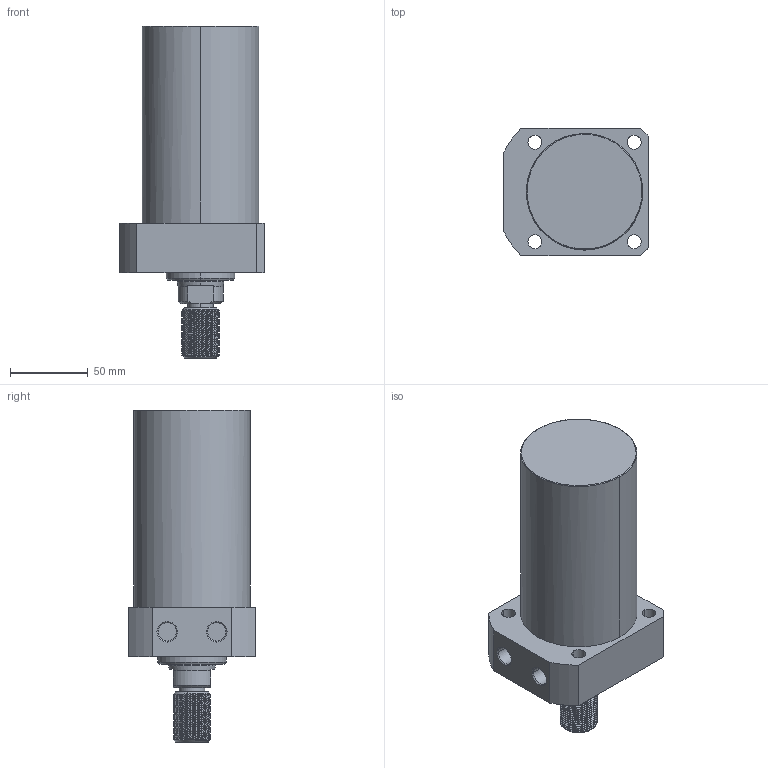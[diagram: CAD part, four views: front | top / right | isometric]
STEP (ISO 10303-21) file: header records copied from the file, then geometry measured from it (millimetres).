
FILE_DESCRIPTION((' '),'2;1');
FILE_NAME( 'TLLR-075CT-090.STEP.stp', '2025-10-24T16:35:11', (' '), ('--- Datakit www.datakit.com---'), ' Datakit CrossCadWare V2024.1 Dec 21 2023', 'Mastercam 2025', ' ');
FILE_SCHEMA(('AUTOMOTIVE_DESIGN { 1 0 10303 214 1 1 1 1 }'));
Length unit declared in the file: millimetre
Products named in the file (1): TLLR-075CT-090
Bounding box: 93 x 82 x 214 mm (x, y, z)
Volume: 818046.9 mm3; surface area: 66052.4 mm2
Topology: 1 solids, 1 shells, 110 faces, 401 edges, 302 vertices
Faces by surface type: cylinder 69, plane 21, cone 16, torus 2, bspline 2
Entity records: 13163 total; most frequent: CARTESIAN_POINT 9761, ORIENTED_EDGE 802, DIRECTION 552, EDGE_CURVE 401, VERTEX_POINT 302, AXIS2_PLACEMENT_3D 223, B_SPLINE_CURVE_WITH_KNOTS 181, EDGE_LOOP 127
